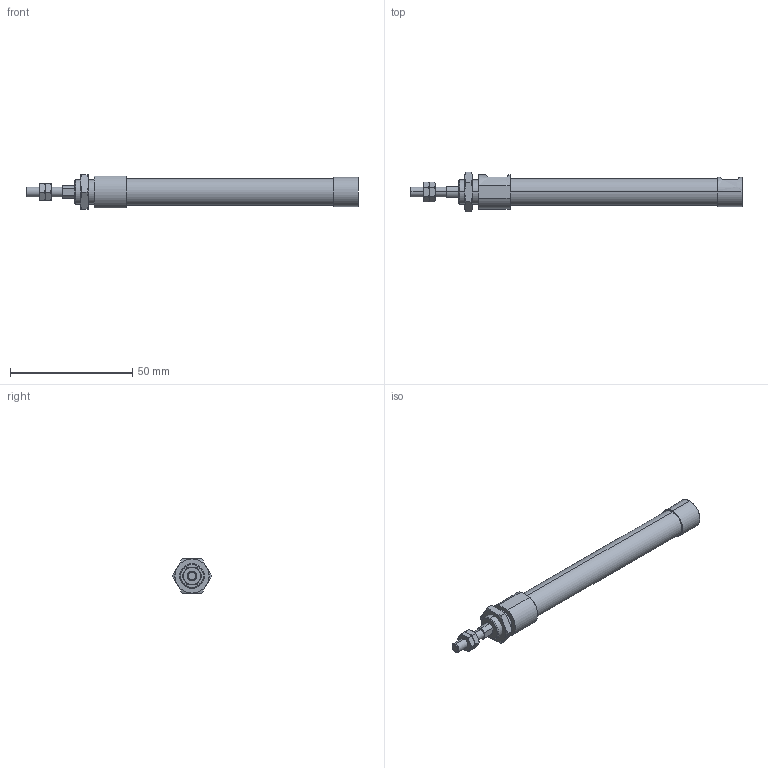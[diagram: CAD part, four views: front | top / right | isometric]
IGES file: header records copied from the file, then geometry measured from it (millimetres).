
Start section: SolidWorks IGES file using analytic representation for surfaces
Global section: file name: C:\Users\Toshiba\Desktop\ZGU2-10-60-N.IGS; native system: SolidWorks 2014; preprocessor: SolidWorks 2014; author: Toshiba; date: 160331.085527; units: millimetre
Bounding box: 136 x 16.17 x 14 mm (x, y, z)
Surface area: 5659.5 mm2 (no closed solid volume)
Topology: 0 solids, 0 shells, 108 faces, 1612 edges, 1608 vertices
Faces by surface type: bspline 77, revolution 31
